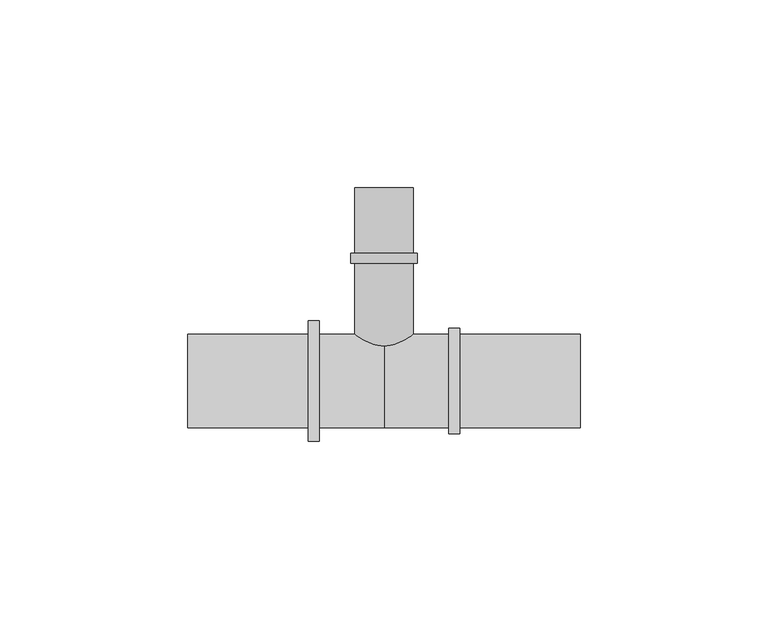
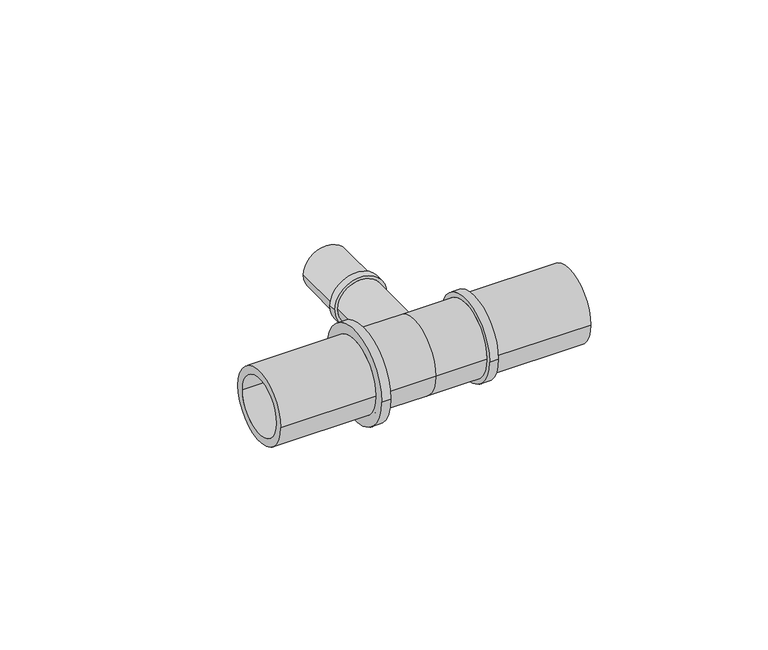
"""IFC4 building model written with IfcOpenShell, lengths in millimetres: pipe fitting geometry, FASTLOC_T-piece_LX : FSL T-Piece LX PL."""

from ifc_helpers import new_model, si_unit, frame, origin, place, context, project, spatial, polyline, circle_curve, source, transform, mapped, element, save
from ifc_brep_helpers import plane_surface, cylinder_surface, revolved_surface, advanced_brep


def pipe_fitting_b80da8a0(model_context):
    return source(origin(), model_context, "Body", "AdvancedBrep", [
        advanced_brep(
        [(5.75, 51.4, 0.0), (-5.75, 51.4, 0.0), (-5.75, 0.0, 0.0), (5.75, 0.0, 0.0), (7.75, 0.0, 0.0), (-7.75, 0.0, 0.0), (-7.75, 31.33, 0.0), (7.75, 31.33, 0.0), (8.8, 31.33, 0.0), (-8.8, 31.33, 0.0), (-8.8, 34.0, 0.0), (8.8, 34.0, 0.0), (7.75, 34.0, 0.0), (-7.75, 34.0, 0.0), (-7.75, 51.4, 0.0), (7.75, 51.4, 0.0)],
        [
            (0, 1, circle_curve(frame((0.0, 51.4, 0.0), z_axis=(0.0, 1.0, 0.0), x_axis=(-1.0, 0.0, 0.0)), 5.75)),
            (1, 2),
            (2, 3, circle_curve(frame((0.0, 0.0, 0.0), z_axis=(0.0, -1.0, 0.0), x_axis=(-1.0, 0.0, 0.0)), 5.75)),
            (3, 0),
            (4, 5, circle_curve(frame((0.0, 0.0, 0.0), z_axis=(0.0, 1.0, 0.0), x_axis=(-1.0, 0.0, 0.0)), 7.75)),
            (5, 6),
            (6, 7, circle_curve(frame((0.0, 31.33, 0.0), z_axis=(0.0, -1.0, 0.0), x_axis=(-1.0, 0.0, 0.0)), 7.75)),
            (7, 4),
            (8, 9, circle_curve(frame((0.0, 31.33, 0.0), z_axis=(0.0, 1.0, 0.0), x_axis=(-1.0, 0.0, 0.0)), 8.8)),
            (9, 10),
            (10, 11, circle_curve(frame((0.0, 34.0, 0.0), z_axis=(0.0, -1.0, 0.0), x_axis=(-1.0, 0.0, 0.0)), 8.8)),
            (11, 8),
            (12, 13, circle_curve(frame((0.0, 34.0, 0.0), z_axis=(0.0, 1.0, 0.0), x_axis=(-1.0, 0.0, 0.0)), 7.75)),
            (13, 14),
            (14, 15, circle_curve(frame((0.0, 51.4, 0.0), z_axis=(0.0, -1.0, 0.0), x_axis=(-1.0, 0.0, 0.0)), 7.75)),
            (15, 12),
            (1, 0, circle_curve(frame((0.0, 51.4, 0.0), z_axis=(0.0, 1.0, 0.0), x_axis=(1.0, 0.0, 0.0)), 5.75)),
            (3, 2, circle_curve(frame((0.0, 0.0, 0.0), z_axis=(0.0, -1.0, 0.0), x_axis=(1.0, 0.0, 0.0)), 5.75)),
            (4, 5, circle_curve(frame((0.0, 0.0, 0.0), z_axis=(0.0, -1.0, 0.0), x_axis=(1.0, 0.0, 0.0)), 7.75)),
            (7, 6, circle_curve(frame((0.0, 31.33, 0.0), z_axis=(0.0, -1.0, 0.0), x_axis=(1.0, 0.0, 0.0)), 7.75)),
            (8, 9, circle_curve(frame((0.0, 31.33, 0.0), z_axis=(0.0, -1.0, 0.0), x_axis=(1.0, 0.0, 0.0)), 8.8)),
            (11, 10, circle_curve(frame((0.0, 34.0, 0.0), z_axis=(0.0, -1.0, 0.0), x_axis=(1.0, 0.0, 0.0)), 8.8)),
            (12, 13, circle_curve(frame((0.0, 34.0, 0.0), z_axis=(0.0, -1.0, 0.0), x_axis=(1.0, 0.0, 0.0)), 7.75)),
            (15, 14, circle_curve(frame((0.0, 51.4, 0.0), z_axis=(0.0, -1.0, 0.0), x_axis=(1.0, 0.0, 0.0)), 7.75)),
        ],
        [
            revolved_surface(polyline([(-5.75, 0.0, 0.0), (-5.75, 51.4, 0.0)]), (0.0, 0.0, 0.0), (0.0, -1.0, 0.0)),
            cylinder_surface(frame((0.0, 0.0, 0.0), z_axis=(0.0, -1.0, 0.0), x_axis=(-1.0, 0.0, 0.0)), 7.75),
            cylinder_surface(frame((0.0, 0.0, 0.0), z_axis=(0.0, -1.0, 0.0), x_axis=(-1.0, 0.0, 0.0)), 8.8),
            revolved_surface(polyline([(5.75, 0.0, 0.0), (5.75, 51.4, 0.0)]), (0.0, 0.0, 0.0), (0.0, -1.0, 0.0)),
            plane_surface(frame((0.0, 0.0, 0.0), z_axis=(0.0, -1.0, 0.0), x_axis=(1.0, 0.0, 0.0))),
            cylinder_surface(frame((0.0, 0.0, 0.0), z_axis=(0.0, -1.0, 0.0), x_axis=(1.0, 0.0, 0.0)), 7.75),
            plane_surface(frame((0.0, 31.33, 0.0), z_axis=(0.0, -1.0, 0.0), x_axis=(1.0, 0.0, 0.0))),
            cylinder_surface(frame((0.0, 0.0, 0.0), z_axis=(0.0, -1.0, 0.0), x_axis=(1.0, 0.0, 0.0)), 8.8),
            plane_surface(frame((0.0, 34.0, 0.0), z_axis=(0.0, 1.0, 0.0), x_axis=(1.0, 0.0, 0.0))),
            plane_surface(frame((0.0, 51.4, 0.0), z_axis=(0.0, 1.0, 0.0), x_axis=(1.0, 0.0, 0.0))),
        ],
        [
            (0, [[1, 2, 3, 4]]),
            (1, [[5, 6, 7, 8]]),
            (2, [[9, 10, 11, 12]]),
            (1, [[13, 14, 15, 16]]),
            (3, [[17, -4, 18, -2]]),
            (4, [[19, -5], [-18, -3]]),
            (5, [[-19, -8, 20, -6]]),
            (6, [[21, -9], [-20, -7]]),
            (7, [[-21, -12, 22, -10]]),
            (8, [[-22, -11], [23, -13]]),
            (5, [[-23, -16, 24, -14]]),
            (9, [[-24, -15], [-17, -1]]),
        ],
    ),
        advanced_brep(
        [(0.0, 12.5, 0.0), (0.0, -12.5, 0.0), (-17.2, -12.5, 0.0), (-17.2, 12.5, 0.0), (17.2, 12.5, 0.0), (17.2, -12.5, 0.0), (20.2, 14.1, 0.0), (20.2, -14.1, 0.0), (17.2, -14.1, 0.0), (17.2, 14.1, 0.0), (52.2, 12.5, 0.0), (52.2, -12.5, 0.0), (20.2, -12.5, 0.0), (20.2, 12.5, 0.0), (-20.2, 12.5, 0.0), (-20.2, -12.5, 0.0), (-52.2, -12.5, 0.0), (-52.2, 12.5, 0.0), (-17.2, 16.0, 0.0), (-17.2, -16.0, 0.0), (-20.2, -16.0, 0.0), (-20.2, 16.0, 0.0), (52.2, -9.85, 0.0), (52.2, 9.85, 0.0), (-52.2, 9.85, 0.0), (-52.2, -9.85, 0.0), (0.0, 9.85, 0.0), (0.0, -9.85, 0.0)],
        [
            (0, 1, circle_curve(frame((0.0, 0.0, 0.0), z_axis=(-1.0, 0.0, 0.0), x_axis=(0.0, -1.0, 0.0)), 12.5)),
            (1, 2),
            (2, 3, circle_curve(frame((-17.2, 0.0, 0.0), z_axis=(1.0, 0.0, 0.0), x_axis=(0.0, -1.0, 0.0)), 12.5)),
            (3, 0),
            (4, 5, circle_curve(frame((17.2, 0.0, 0.0), z_axis=(-1.0, 0.0, 0.0), x_axis=(0.0, -1.0, 0.0)), 12.5)),
            (5, 1),
            (0, 4),
            (6, 7, circle_curve(frame((20.2, 0.0, 0.0), z_axis=(-1.0, 0.0, 0.0), x_axis=(0.0, -1.0, 0.0)), 14.1)),
            (7, 8),
            (8, 9, circle_curve(frame((17.2, 0.0, 0.0), z_axis=(1.0, 0.0, 0.0), x_axis=(0.0, -1.0, 0.0)), 14.1)),
            (9, 6),
            (10, 11, circle_curve(frame((52.2, 0.0, 0.0), z_axis=(-1.0, 0.0, 0.0), x_axis=(0.0, -1.0, 0.0)), 12.5)),
            (11, 12),
            (12, 13, circle_curve(frame((20.2, 0.0, 0.0), z_axis=(1.0, 0.0, 0.0), x_axis=(0.0, -1.0, 0.0)), 12.5)),
            (13, 10),
            (14, 15, circle_curve(frame((-20.2, 0.0, 0.0), z_axis=(-1.0, 0.0, 0.0), x_axis=(0.0, -1.0, 0.0)), 12.5)),
            (15, 16),
            (16, 17, circle_curve(frame((-52.2, 0.0, 0.0), z_axis=(1.0, 0.0, 0.0), x_axis=(0.0, -1.0, 0.0)), 12.5)),
            (17, 14),
            (18, 19, circle_curve(frame((-17.2, 0.0, 0.0), z_axis=(-1.0, 0.0, 0.0), x_axis=(0.0, -1.0, 0.0)), 16.0)),
            (19, 20),
            (20, 21, circle_curve(frame((-20.2, 0.0, 0.0), z_axis=(1.0, 0.0, 0.0), x_axis=(0.0, -1.0, 0.0)), 16.0)),
            (21, 18),
            (18, 19, circle_curve(frame((-17.2, 0.0, 0.0), z_axis=(1.0, 0.0, 0.0), x_axis=(0.0, 1.0, 0.0)), 16.0)),
            (2, 3, circle_curve(frame((-17.2, 0.0, 0.0), z_axis=(-1.0, 0.0, 0.0), x_axis=(0.0, 1.0, 0.0)), 12.5)),
            (1, 0, circle_curve(frame((0.0, 0.0, 0.0), z_axis=(-1.0, 0.0, 0.0), x_axis=(0.0, 1.0, 0.0)), 12.5)),
            (5, 4, circle_curve(frame((17.2, 0.0, 0.0), z_axis=(-1.0, 0.0, 0.0), x_axis=(0.0, 1.0, 0.0)), 12.5)),
            (8, 9, circle_curve(frame((17.2, 0.0, 0.0), z_axis=(-1.0, 0.0, 0.0), x_axis=(0.0, 1.0, 0.0)), 14.1)),
            (7, 6, circle_curve(frame((20.2, 0.0, 0.0), z_axis=(-1.0, 0.0, 0.0), x_axis=(0.0, 1.0, 0.0)), 14.1)),
            (12, 13, circle_curve(frame((20.2, 0.0, 0.0), z_axis=(-1.0, 0.0, 0.0), x_axis=(0.0, 1.0, 0.0)), 12.5)),
            (11, 10, circle_curve(frame((52.2, 0.0, 0.0), z_axis=(-1.0, 0.0, 0.0), x_axis=(0.0, 1.0, 0.0)), 12.5)),
            (22, 23, circle_curve(frame((52.2, 0.0, 0.0), z_axis=(-1.0, 0.0, 0.0), x_axis=(0.0, 1.0, 0.0)), 9.85)),
            (23, 22, circle_curve(frame((52.2, 0.0, 0.0), z_axis=(-1.0, 0.0, 0.0), x_axis=(0.0, -1.0, 0.0)), 9.85)),
            (16, 17, circle_curve(frame((-52.2, 0.0, 0.0), z_axis=(-1.0, 0.0, 0.0), x_axis=(0.0, 1.0, 0.0)), 12.5)),
            (24, 25, circle_curve(frame((-52.2, 0.0, 0.0), z_axis=(1.0, 0.0, 0.0), x_axis=(0.0, 1.0, 0.0)), 9.85)),
            (25, 24, circle_curve(frame((-52.2, 0.0, 0.0), z_axis=(1.0, 0.0, 0.0), x_axis=(0.0, -1.0, 0.0)), 9.85)),
            (15, 14, circle_curve(frame((-20.2, 0.0, 0.0), z_axis=(-1.0, 0.0, 0.0), x_axis=(0.0, 1.0, 0.0)), 12.5)),
            (20, 21, circle_curve(frame((-20.2, 0.0, 0.0), z_axis=(-1.0, 0.0, 0.0), x_axis=(0.0, 1.0, 0.0)), 16.0)),
            (26, 27, circle_curve(frame((0.0, 0.0, 0.0), z_axis=(-1.0, 0.0, 0.0), x_axis=(0.0, -1.0, 0.0)), 9.85)),
            (27, 22),
            (23, 26),
            (25, 27),
            (26, 24),
            (27, 26, circle_curve(frame((0.0, 0.0, 0.0), z_axis=(-1.0, 0.0, 0.0), x_axis=(0.0, 1.0, 0.0)), 9.85)),
        ],
        [
            cylinder_surface(frame((0.0, 0.0, 0.0), z_axis=(1.0, 0.0, 0.0), x_axis=(0.0, -1.0, 0.0)), 12.5),
            cylinder_surface(frame((0.0, 0.0, 0.0), z_axis=(1.0, 0.0, 0.0), x_axis=(0.0, -1.0, 0.0)), 14.1),
            cylinder_surface(frame((0.0, 0.0, 0.0), z_axis=(1.0, 0.0, 0.0), x_axis=(0.0, -1.0, 0.0)), 16.0),
            plane_surface(frame((-17.2, 0.0, 0.0), z_axis=(1.0, 0.0, 0.0), x_axis=(0.0, 1.0, 0.0))),
            cylinder_surface(frame((0.0, 0.0, 0.0), z_axis=(1.0, 0.0, 0.0), x_axis=(0.0, 1.0, 0.0)), 12.5),
            plane_surface(frame((17.2, 0.0, 0.0), z_axis=(-1.0, 0.0, 0.0), x_axis=(0.0, 1.0, 0.0))),
            cylinder_surface(frame((0.0, 0.0, 0.0), z_axis=(1.0, 0.0, 0.0), x_axis=(0.0, 1.0, 0.0)), 14.1),
            plane_surface(frame((20.2, 0.0, 0.0), z_axis=(1.0, 0.0, 0.0), x_axis=(0.0, 1.0, 0.0))),
            plane_surface(frame((52.2, 0.0, 0.0), z_axis=(1.0, 0.0, 0.0), x_axis=(0.0, 1.0, 0.0))),
            plane_surface(frame((-52.2, 0.0, 0.0), z_axis=(-1.0, 0.0, 0.0), x_axis=(0.0, 1.0, 0.0))),
            plane_surface(frame((-20.2, 0.0, 0.0), z_axis=(-1.0, 0.0, 0.0), x_axis=(0.0, 1.0, 0.0))),
            cylinder_surface(frame((0.0, 0.0, 0.0), z_axis=(1.0, 0.0, 0.0), x_axis=(0.0, 1.0, 0.0)), 16.0),
            revolved_surface(polyline([(52.2, -9.85, 0.0), (0.0, -9.85, 0.0)]), (0.0, 0.0, 0.0), (1.0, 0.0, 0.0)),
            revolved_surface(polyline([(0.0, -9.85, 0.0), (-52.2, -9.85, 0.0)]), (0.0, 0.0, 0.0), (1.0, 0.0, 0.0)),
            revolved_surface(polyline([(52.2, 9.85, 0.0), (0.0, 9.85, 0.0)]), (0.0, 0.0, 0.0), (1.0, 0.0, 0.0)),
            revolved_surface(polyline([(0.0, 9.85, 0.0), (-52.2, 9.85, 0.0)]), (0.0, 0.0, 0.0), (1.0, 0.0, 0.0)),
        ],
        [
            (0, [[1, 2, 3, 4]]),
            (0, [[5, 6, -1, 7]]),
            (1, [[8, 9, 10, 11]]),
            (0, [[12, 13, 14, 15]]),
            (0, [[16, 17, 18, 19]]),
            (2, [[20, 21, 22, 23]]),
            (3, [[24, -20], [25, -3]]),
            (4, [[26, -4, -25, -2]]),
            (4, [[27, -7, -26, -6]]),
            (5, [[28, -10], [-27, -5]]),
            (6, [[29, -11, -28, -9]]),
            (7, [[-29, -8], [30, -14]]),
            (4, [[31, -15, -30, -13]]),
            (8, [[-31, -12], [32, 33]]),
            (9, [[34, -18], [35, 36]]),
            (4, [[37, -19, -34, -17]]),
            (10, [[38, -22], [-37, -16]]),
            (11, [[-24, -23, -38, -21]]),
            (12, [[39, 40, -33, 41]]),
            (13, [[-36, 42, -39, 43]]),
            (14, [[44, -41, -32, -40]]),
            (15, [[-35, -43, -44, -42]]),
        ],
    ),
    ])


if __name__ == "__main__":
    model = new_model("IFC4")
    model_context = context("Model", 3, world=origin())
    ifc_project = project(units=[si_unit("LENGTHUNIT", "METRE", prefix="MILLI")], contexts=[model_context])
    site = spatial("IfcSite", under=ifc_project)
    building = spatial("IfcBuilding", under=site)
    placement = place(None, origin())
    pipe_fitting_shape = pipe_fitting_b80da8a0(model_context)
    element("IfcPipeFitting", 1, ObjectType="FASTLOC_T-piece_LX : FSL T-Piece LX PL", at=placement, inside=building, context=model_context, shape_type="MappedRepresentation", body=[
        mapped(pipe_fitting_shape, transform((0.0, 0.0, 0.0), x_axis=(1.0, 0.0, 0.0), y_axis=(0.0, 1.0, 0.0), z_axis=(0.0, 0.0, 1.0))),
    ])
    save(model, "model.ifc")
